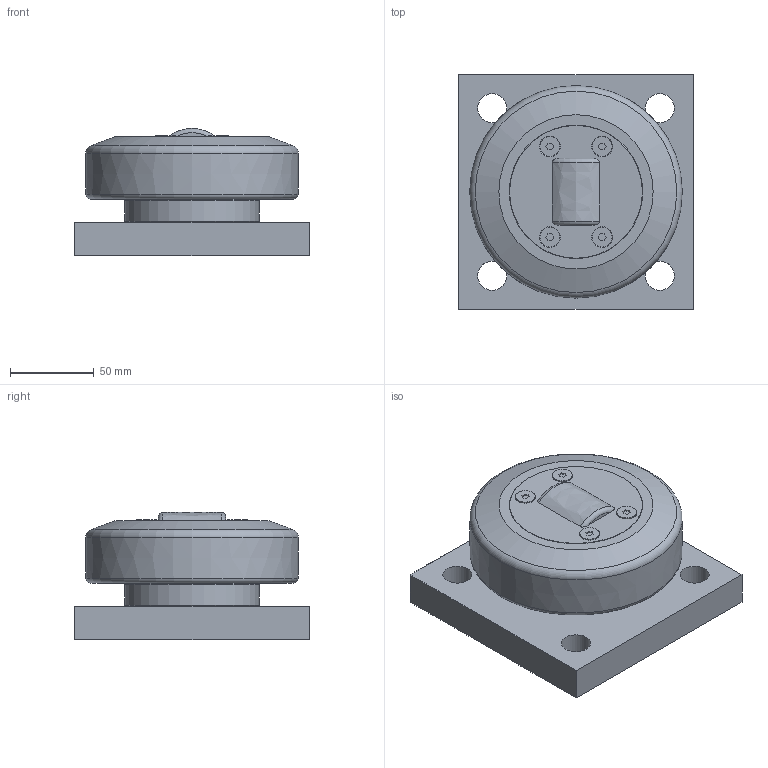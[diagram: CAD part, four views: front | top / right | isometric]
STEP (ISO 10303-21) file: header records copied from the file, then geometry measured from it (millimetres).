
FILE_DESCRIPTION(/* description */ ('-','CAx-IF Rec.Pracs.---Representation and Presentation of Product Manufacturing Information (PMI)---4.0---2014-10-13'),/* implementation_level */ '2;1');
FILE_NAME(/* name */ 'c:\temp\a042ed46-4169-4950-9b26-1199c431f40f\e28a7f0b-04f5-4693-9cbe-7c0ff3ce4c33.stp',/* time_stamp */ '2020-04-01T16:50:34+02:00',/* author */ ('-'),/* organization */ ('NTI CADcenter A/S'),/* preprocessor_version */ 'ST-DEVELOPER v18',/* originating_system */ 'Autodesk Inventor 2020',/* authorisation */ '-');
FILE_SCHEMA (('AP242_MANAGED_MODEL_BASED_3D_ENGINEERING_MIM_LF { 1 0 10303 442 1 1 4 }'));
Length unit declared in the file: millimetre
Products named in the file (1): XTR 120.0200 BQ1000_Kontur
Bounding box: 140 x 140 x 76 mm (x, y, z)
Volume: 892618.8 mm3; surface area: 83940.4 mm2
Topology: 1 solids, 1 shells, 72 faces, 175 edges, 122 vertices
Faces by surface type: plane 48, cylinder 10, cone 8, torus 4, bspline 2
Full cylindrical faces by diameter (mm): 11.7 x4, 17.294 x4, 80 x2
Entity records: 2269 total; most frequent: CARTESIAN_POINT 450, DIRECTION 376, ORIENTED_EDGE 350, EDGE_CURVE 175, AXIS2_PLACEMENT_3D 136, VERTEX_POINT 122, LINE 104, VECTOR 104
